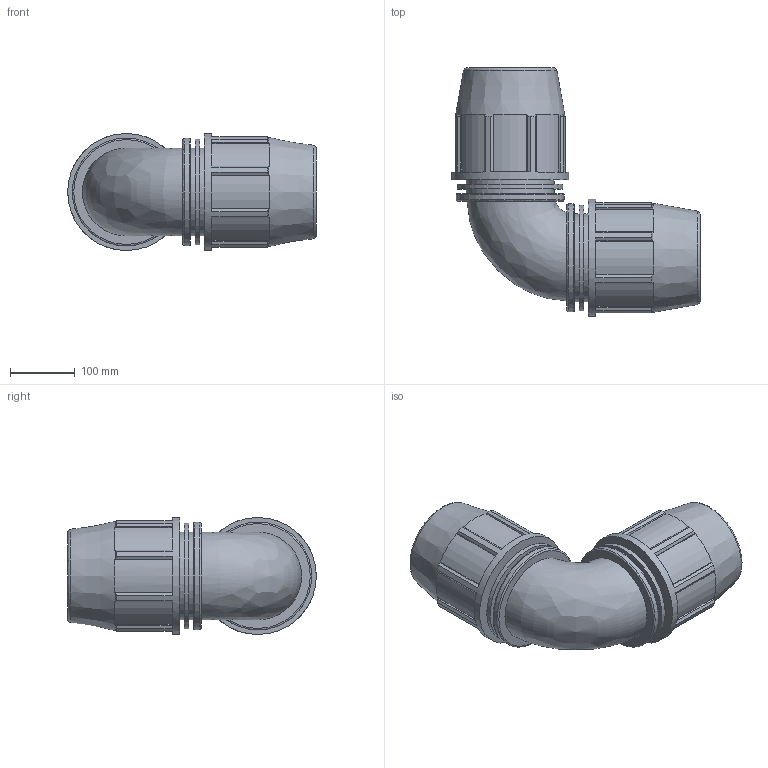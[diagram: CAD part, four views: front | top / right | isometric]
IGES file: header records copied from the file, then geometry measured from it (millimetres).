
Global section: file name: 870500110_180500110_840506110.ipt; native system: Autodesk Inventor 2015; preprocessor: unknown; author: KIM; date: 20180325.201213; units: millimetre
Bounding box: 384.5 x 384.5 x 181 mm (x, y, z)
Volume: 5647125.2 mm3; surface area: 573247.1 mm2
Topology: 1 solids, 1 shells, 156 faces, 438 edges, 298 vertices
Faces by surface type: plane 96, cylinder 26, cone 18, revolution 15, bspline 1
Full cylindrical faces by diameter (mm): 135.75 x4, 163.19 x2, 166.52 x2, 181 x2
